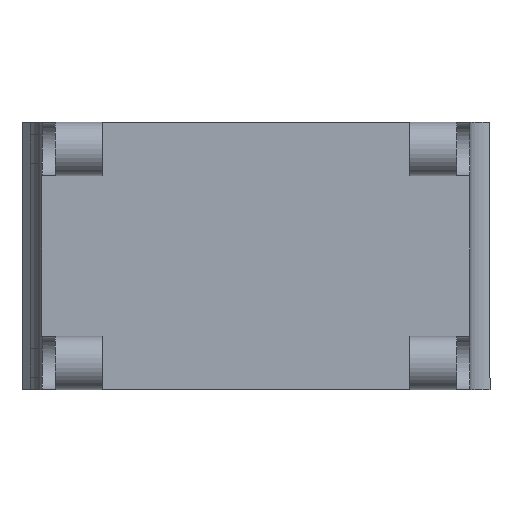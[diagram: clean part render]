
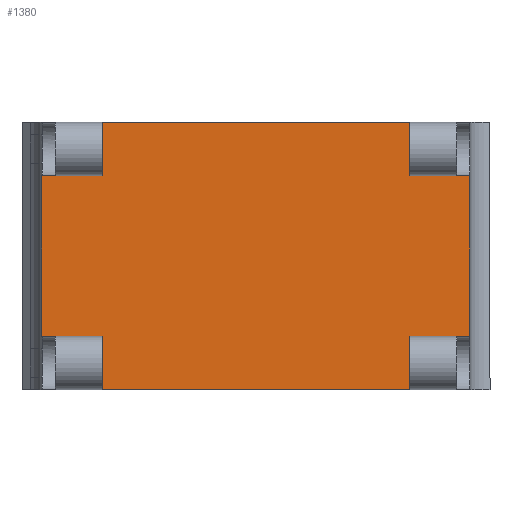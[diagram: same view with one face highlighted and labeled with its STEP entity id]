
A CAD part, front view. The second image highlights one B-rep face of the part: STEP entity #1380.
In plain terms, the highlighted planar face has unit normal (0, -1, 0) as drawn and (0, 0, 1) by its records, which use the part's own axes.
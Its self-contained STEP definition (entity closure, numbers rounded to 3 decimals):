
#4 = VERTEX_POINT ( 'NONE', #1270 ) ;
#36 = DIRECTION ( 'NONE',  ( 0., 1., 0. ) ) ;
#81 = VERTEX_POINT ( 'NONE', #1856 ) ;
#87 = VECTOR ( 'NONE', #931, 1000. ) ;
#167 = CARTESIAN_POINT ( 'NONE',  ( -11.5, -10., 3. ) ) ;
#180 = EDGE_CURVE ( 'NONE', #3281, #1021, #697, .T. ) ;
#191 = CARTESIAN_POINT ( 'NONE',  ( -11.5, 10., 3. ) ) ;
#195 = CARTESIAN_POINT ( 'NONE',  ( -16.01, -6., 3. ) ) ;
#334 = DIRECTION ( 'NONE',  ( 0., -1., 0. ) ) ;
#388 = EDGE_CURVE ( 'NONE', #3281, #3201, #1657, .T. ) ;
#409 = DIRECTION ( 'NONE',  ( 1., 0., 0. ) ) ;
#414 = CARTESIAN_POINT ( 'NONE',  ( 11.5, 5.997, 3. ) ) ;
#492 = CARTESIAN_POINT ( 'NONE',  ( -11.5, 10., 3. ) ) ;
#503 = ORIENTED_EDGE ( 'NONE', *, *, #180, .T. ) ;
#537 = EDGE_CURVE ( 'NONE', #81, #4, #1260, .T. ) ;
#556 = VECTOR ( 'NONE', #3238, 1000. ) ;
#563 = VECTOR ( 'NONE', #1119, 1000. ) ;
#581 = CARTESIAN_POINT ( 'NONE',  ( -5.84, -6., 3. ) ) ;
#606 = EDGE_CURVE ( 'NONE', #2160, #1607, #956, .T. ) ;
#682 = ORIENTED_EDGE ( 'NONE', *, *, #1974, .T. ) ;
#697 = LINE ( 'NONE', #2471, #2882 ) ;
#714 = LINE ( 'NONE', #492, #2903 ) ;
#778 = CARTESIAN_POINT ( 'NONE',  ( -11.5, 10., 3. ) ) ;
#830 = EDGE_CURVE ( 'NONE', #1389, #3027, #916, .T. ) ;
#849 = VERTEX_POINT ( 'NONE', #2528 ) ;
#870 = EDGE_CURVE ( 'NONE', #1021, #3027, #1686, .T. ) ;
#916 = LINE ( 'NONE', #581, #563 ) ;
#931 = DIRECTION ( 'NONE',  ( 0., -1., 0. ) ) ;
#950 = VECTOR ( 'NONE', #334, 1000. ) ;
#956 = LINE ( 'NONE', #1990, #1633 ) ;
#960 = VECTOR ( 'NONE', #2133, 1000. ) ;
#963 = CARTESIAN_POINT ( 'NONE',  ( 0., 0., 3. ) ) ;
#1021 = VERTEX_POINT ( 'NONE', #2557 ) ;
#1045 = VERTEX_POINT ( 'NONE', #1794 ) ;
#1119 = DIRECTION ( 'NONE',  ( -1., 0., 0. ) ) ;
#1174 = CARTESIAN_POINT ( 'NONE',  ( -11.5, 10., 3. ) ) ;
#1233 = ORIENTED_EDGE ( 'NONE', *, *, #2781, .F. ) ;
#1236 = DIRECTION ( 'NONE',  ( 1., 0., 0. ) ) ;
#1260 = LINE ( 'NONE', #3056, #1801 ) ;
#1261 = ORIENTED_EDGE ( 'NONE', *, *, #3329, .F. ) ;
#1270 = CARTESIAN_POINT ( 'NONE',  ( 11.5, -6., 3. ) ) ;
#1297 = CARTESIAN_POINT ( 'NONE',  ( 16., 5.997, 3. ) ) ;
#1310 = LINE ( 'NONE', #2349, #1812 ) ;
#1351 = LINE ( 'NONE', #2620, #960 ) ;
#1377 = EDGE_CURVE ( 'NONE', #3201, #849, #2505, .T. ) ;
#1380 = ADVANCED_FACE ( 'NONE', ( #1487 ), #3286, .T. ) ;
#1389 = VERTEX_POINT ( 'NONE', #3315 ) ;
#1429 = VECTOR ( 'NONE', #409, 1000. ) ;
#1431 = VECTOR ( 'NONE', #1685, 1000. ) ;
#1449 = EDGE_LOOP ( 'NONE', ( #1537, #2073, #1695, #3047, #503, #2853, #3298, #2515, #1233, #1261, #2819, #682 ) ) ;
#1487 = FACE_OUTER_BOUND ( 'NONE', #1449, .T. ) ;
#1490 = DIRECTION ( 'NONE',  ( 0., 1., 0. ) ) ;
#1537 = ORIENTED_EDGE ( 'NONE', *, *, #606, .T. ) ;
#1607 = VERTEX_POINT ( 'NONE', #414 ) ;
#1631 = EDGE_CURVE ( 'NONE', #849, #1607, #2263, .T. ) ;
#1633 = VECTOR ( 'NONE', #3024, 1000. ) ;
#1657 = LINE ( 'NONE', #1174, #556 ) ;
#1685 = DIRECTION ( 'NONE',  ( 0., -1., 0. ) ) ;
#1686 = LINE ( 'NONE', #2264, #87 ) ;
#1695 = ORIENTED_EDGE ( 'NONE', *, *, #1377, .F. ) ;
#1794 = CARTESIAN_POINT ( 'NONE',  ( 11.5, -10., 3. ) ) ;
#1801 = VECTOR ( 'NONE', #2006, 1000. ) ;
#1812 = VECTOR ( 'NONE', #36, 1000. ) ;
#1856 = CARTESIAN_POINT ( 'NONE',  ( 16., -6., 3. ) ) ;
#1974 = EDGE_CURVE ( 'NONE', #81, #2160, #1310, .T. ) ;
#1990 = CARTESIAN_POINT ( 'NONE',  ( -5.84, 5.997, 3. ) ) ;
#2006 = DIRECTION ( 'NONE',  ( -1., 0., 0. ) ) ;
#2073 = ORIENTED_EDGE ( 'NONE', *, *, #1631, .F. ) ;
#2128 = CARTESIAN_POINT ( 'NONE',  ( -11.5, 5.997, 3. ) ) ;
#2133 = DIRECTION ( 'NONE',  ( -1., 0., 0. ) ) ;
#2160 = VERTEX_POINT ( 'NONE', #1297 ) ;
#2203 = LINE ( 'NONE', #2701, #950 ) ;
#2242 = CARTESIAN_POINT ( 'NONE',  ( 11.5, 10., 3. ) ) ;
#2263 = LINE ( 'NONE', #2242, #1431 ) ;
#2264 = CARTESIAN_POINT ( 'NONE',  ( -16.01, 5.997, 3. ) ) ;
#2349 = CARTESIAN_POINT ( 'NONE',  ( 16., 10., 3. ) ) ;
#2392 = VERTEX_POINT ( 'NONE', #167 ) ;
#2471 = CARTESIAN_POINT ( 'NONE',  ( -5.84, 5.997, 3. ) ) ;
#2504 = DIRECTION ( 'NONE',  ( -1., 0., 0. ) ) ;
#2505 = LINE ( 'NONE', #191, #1429 ) ;
#2515 = ORIENTED_EDGE ( 'NONE', *, *, #3041, .F. ) ;
#2522 = DIRECTION ( 'NONE',  ( 0., 0., 1. ) ) ;
#2528 = CARTESIAN_POINT ( 'NONE',  ( 11.5, 10., 3. ) ) ;
#2557 = CARTESIAN_POINT ( 'NONE',  ( -16.01, 5.997, 3. ) ) ;
#2620 = CARTESIAN_POINT ( 'NONE',  ( -11.5, -10., 3. ) ) ;
#2701 = CARTESIAN_POINT ( 'NONE',  ( 11.5, 10., 3. ) ) ;
#2781 = EDGE_CURVE ( 'NONE', #1045, #2392, #1351, .T. ) ;
#2819 = ORIENTED_EDGE ( 'NONE', *, *, #537, .F. ) ;
#2853 = ORIENTED_EDGE ( 'NONE', *, *, #870, .T. ) ;
#2882 = VECTOR ( 'NONE', #2504, 1000. ) ;
#2903 = VECTOR ( 'NONE', #1490, 1000. ) ;
#2946 = AXIS2_PLACEMENT_3D ( 'NONE', #963, #2522, #1236 ) ;
#3024 = DIRECTION ( 'NONE',  ( -1., 0., 0. ) ) ;
#3027 = VERTEX_POINT ( 'NONE', #195 ) ;
#3041 = EDGE_CURVE ( 'NONE', #2392, #1389, #714, .T. ) ;
#3047 = ORIENTED_EDGE ( 'NONE', *, *, #388, .F. ) ;
#3056 = CARTESIAN_POINT ( 'NONE',  ( -5.84, -6., 3. ) ) ;
#3201 = VERTEX_POINT ( 'NONE', #778 ) ;
#3238 = DIRECTION ( 'NONE',  ( 0., 1., 0. ) ) ;
#3281 = VERTEX_POINT ( 'NONE', #2128 ) ;
#3286 = PLANE ( 'NONE',  #2946 ) ;
#3298 = ORIENTED_EDGE ( 'NONE', *, *, #830, .F. ) ;
#3315 = CARTESIAN_POINT ( 'NONE',  ( -11.5, -6., 3. ) ) ;
#3329 = EDGE_CURVE ( 'NONE', #4, #1045, #2203, .T. ) ;
